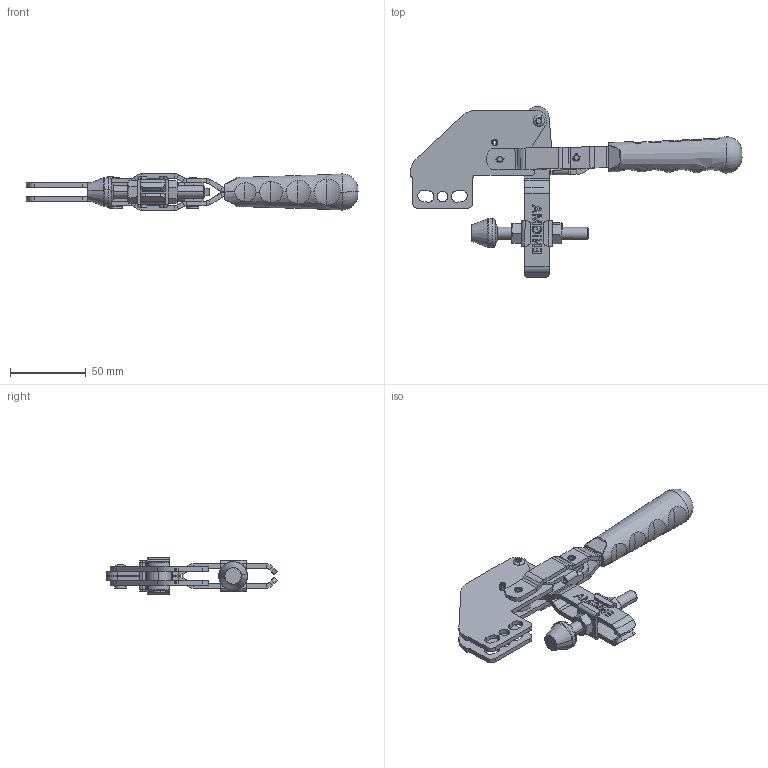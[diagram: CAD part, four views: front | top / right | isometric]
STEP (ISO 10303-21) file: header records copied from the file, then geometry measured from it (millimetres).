
FILE_DESCRIPTION (( 'STEP AP203' ), '1' );
FILE_NAME ('1103_P.STEP', '2025-03-03T14:00:40', ( '' ), ( '' ), 'SwSTEP 2.0', 'SolidWorks 2025', '' );
FILE_SCHEMA (( 'CONFIG_CONTROL_DESIGN' ));
Length unit declared in the file: millimetre
Products named in the file (18): C90_T(YENİ_TUTAMAK)_Varsayılan; 1103_P; Mirror1103_BK(BASKI_KOLU)_Varsayılan; Mirror1103_HK(HAREKET_KOLU)_Varsayılan; 1103_A_G(GÖVDE)_Varsayılan; M8_S(SOMUN); Ø8xØ5x12_B(BURÇ)_Varsayılan; Ø4x20_YP(YARIKLI_PİM)_Varsayılan; 1103_BK(BASKI_KOLU)_Varsayılan; 1103_M(MAFSAL)_Varsayılan; M8_BP(BASKI_PABUCU)_Varsayılan; Ø8xØ5x6_B(BURÇ)_Varsayılan; Ø5x15_P(PERÇİN)_Varsayılan; 1103_HK(HAREKET_KOLU)_Varsayılan; Mirror1103_A_G(GÖVDE)_Varsayılan; Ø16,5xØ8,5x6_LY(LAZER_YÜZÜK)_Varsayılan; M8_P(PUL)_Varsayılan; Ø5x21_P(PERÇİN)_Varsayılan
Assembly tree (23 placements, depth 2):
  1103_P
    1103_A_G(GÖVDE)_Varsayılan
    1103_BK(BASKI_KOLU)_Varsayılan
    Mirror1103_BK(BASKI_KOLU)_Varsayılan
    1103_M(MAFSAL)_Varsayılan
    1103_HK(HAREKET_KOLU)_Varsayılan
    Ø8xØ5x6_B(BURÇ)_Varsayılan  x2
    Ø8xØ5x12_B(BURÇ)_Varsayılan  x2
    Ø16,5xØ8,5x6_LY(LAZER_YÜZÜK)_Varsayılan
    Mirror1103_A_G(GÖVDE)_Varsayılan
    Mirror1103_HK(HAREKET_KOLU)_Varsayılan
    Ø5x15_P(PERÇİN)_Varsayılan  x2
    Ø5x21_P(PERÇİN)_Varsayılan  x2
    Ø4x20_YP(YARIKLI_PİM)_Varsayılan
    C90_T(YENİ_TUTAMAK)_Varsayılan
    M8_P(PUL)_Varsayılan  x2
    M8_BP(BASKI_PABUCU)_Varsayılan
    M8_S(SOMUN)  x2
Bounding box: 219.29 x 113.07 x 24 mm (x, y, z)
Volume: 84009.5 mm3; surface area: 60750.8 mm2
Topology: 23 solids, 23 shells, 1387 faces, 3473 edges, 2205 vertices
Faces by surface type: plane 856, cylinder 295, bspline 130, cone 66, torus 36, sphere 4
Entity records: 40783 total; most frequent: CARTESIAN_POINT 13504, ORIENTED_EDGE 5396, DIRECTION 4902, EDGE_CURVE 2698, LINE 1732, VECTOR 1732, VERTEX_POINT 1711, AXIS2_PLACEMENT_3D 1585
